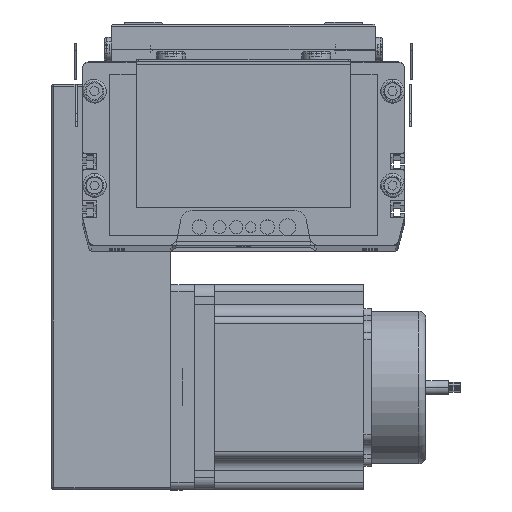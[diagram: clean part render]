
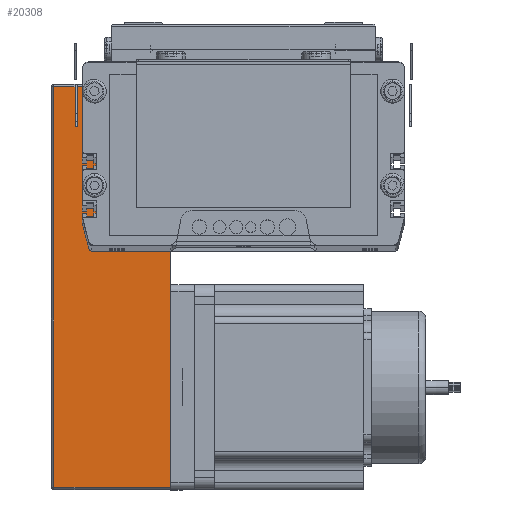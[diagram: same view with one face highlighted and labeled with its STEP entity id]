
A CAD part, top view. The second image highlights one B-rep face of the part: STEP entity #20308.
In plain terms, the highlighted planar face has unit normal (0, 0, 1) as drawn and (0, -1, 0) by its records, which use the part's own axes.
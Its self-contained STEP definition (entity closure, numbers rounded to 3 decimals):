
#7644 = CARTESIAN_POINT ( 'NONE',  ( 80.482, 0., 0. ) ) ;
#7772 = CARTESIAN_POINT ( 'NONE',  ( 10.902, 0., 0. ) ) ;
#7788 = CARTESIAN_POINT ( 'NONE',  ( 5.418, 0., 0. ) ) ;
#7795 = CARTESIAN_POINT ( 'NONE',  ( 74.998, 0., 0. ) ) ;
#8381 = CARTESIAN_POINT ( 'NONE',  ( 0., 0., 0. ) ) ;
#8382 = LINE ( 'NONE', #8381, #8388 ) ;
#8387 = DIRECTION ( 'NONE',  ( 1., 0., 0. ) ) ;
#8388 = VECTOR ( 'NONE', #8387, 1000. ) ;
#8419 = CARTESIAN_POINT ( 'NONE',  ( 169., 0., 0. ) ) ;
#8420 = CARTESIAN_POINT ( 'NONE',  ( 85.9, 0., 0. ) ) ;
#8501 = LINE ( 'NONE', #8574, #8573 ) ;
#8572 = DIRECTION ( 'NONE',  ( 1., 0., 0. ) ) ;
#8573 = VECTOR ( 'NONE', #8572, 1000. ) ;
#8574 = CARTESIAN_POINT ( 'NONE',  ( 0., 0., 0. ) ) ;
#8643 = DIRECTION ( 'NONE',  ( 1., 0., 0. ) ) ;
#8644 = VECTOR ( 'NONE', #8643, 1000. ) ;
#8645 = CARTESIAN_POINT ( 'NONE',  ( 0., 0., 0. ) ) ;
#8647 = LINE ( 'NONE', #8645, #8644 ) ;
#8679 = CARTESIAN_POINT ( 'NONE',  ( 1., 0., 0. ) ) ;
#8735 = DIRECTION ( 'NONE',  ( -1., 0., 0. ) ) ;
#8736 = VECTOR ( 'NONE', #8735, 1000. ) ;
#8737 = CARTESIAN_POINT ( 'NONE',  ( 0., 0., 49. ) ) ;
#8738 = LINE ( 'NONE', #8737, #8736 ) ;
#8758 = AXIS2_PLACEMENT_3D ( 'NONE', #8800, #8799, #8798 ) ;
#8783 = DIRECTION ( 'NONE',  ( 0., 0., -1. ) ) ;
#8784 = VECTOR ( 'NONE', #8783, 1000. ) ;
#8785 = CARTESIAN_POINT ( 'NONE',  ( 1., 0., 50. ) ) ;
#8786 = LINE ( 'NONE', #8785, #8784 ) ;
#8793 = DIRECTION ( 'NONE',  ( 1., 0., 0. ) ) ;
#8798 = DIRECTION ( 'NONE',  ( 0., 0., 1. ) ) ;
#8799 = DIRECTION ( 'NONE',  ( 0., 1., 0. ) ) ;
#8800 = CARTESIAN_POINT ( 'NONE',  ( 0., 0., 50. ) ) ;
#8805 = VECTOR ( 'NONE', #8793, 1000. ) ;
#8809 = PLANE ( 'NONE',  #8758 ) ;
#8811 = FACE_OUTER_BOUND ( 'NONE', #20176, .T. ) ;
#8816 = CARTESIAN_POINT ( 'NONE',  ( 0., 0., 0. ) ) ;
#8817 = LINE ( 'NONE', #8816, #8805 ) ;
#8824 = LINE ( 'NONE', #8875, #8874 ) ;
#8848 = DIRECTION ( 'NONE',  ( 0., 0., 1. ) ) ;
#8849 = VECTOR ( 'NONE', #8848, 1000. ) ;
#8850 = CARTESIAN_POINT ( 'NONE',  ( 169., 0., 50. ) ) ;
#8852 = LINE ( 'NONE', #8850, #8849 ) ;
#8861 = DIRECTION ( 'NONE',  ( 1., 0., 0. ) ) ;
#8862 = VECTOR ( 'NONE', #8861, 1000. ) ;
#8873 = DIRECTION ( 'NONE',  ( 1., 0., 0. ) ) ;
#8874 = VECTOR ( 'NONE', #8873, 1000. ) ;
#8875 = CARTESIAN_POINT ( 'NONE',  ( 0., 0., 0. ) ) ;
#8877 = CARTESIAN_POINT ( 'NONE',  ( 0., 0., 0. ) ) ;
#8878 = LINE ( 'NONE', #8877, #8862 ) ;
#8930 = CARTESIAN_POINT ( 'NONE',  ( 169., 0., 49. ) ) ;
#8931 = CARTESIAN_POINT ( 'NONE',  ( 1., 0., 49. ) ) ;
#19573 = VERTEX_POINT ( 'NONE', #7644 ) ;
#19659 = VERTEX_POINT ( 'NONE', #7772 ) ;
#19680 = VERTEX_POINT ( 'NONE', #7795 ) ;
#19682 = VERTEX_POINT ( 'NONE', #7788 ) ;
#20038 = EDGE_CURVE ( 'NONE', #20054, #20064, #8382, .T. ) ;
#20054 = VERTEX_POINT ( 'NONE', #8420 ) ;
#20064 = VERTEX_POINT ( 'NONE', #8419 ) ;
#20111 = EDGE_CURVE ( 'NONE', #20222, #19682, #8501, .T. ) ;
#20132 = ORIENTED_EDGE ( 'NONE', *, *, #20189, .T. ) ;
#20176 = EDGE_LOOP ( 'NONE', ( #20315, #20309, #20132, #20379, #20298, #20192, #20392, #20317, #20282 ) ) ;
#20189 = EDGE_CURVE ( 'NONE', #19659, #19680, #8647, .T. ) ;
#20192 = ORIENTED_EDGE ( 'NONE', *, *, #20038, .T. ) ;
#20222 = VERTEX_POINT ( 'NONE', #8679 ) ;
#20256 = EDGE_CURVE ( 'NONE', #20398, #20396, #8738, .T. ) ;
#20272 = EDGE_CURVE ( 'NONE', #20396, #20222, #8786, .T. ) ;
#20282 = ORIENTED_EDGE ( 'NONE', *, *, #20272, .T. ) ;
#20298 = ORIENTED_EDGE ( 'NONE', *, *, #20381, .T. ) ;
#20308 = ADVANCED_FACE ( 'NONE', ( #8811 ), #8809, .F. ) ;
#20309 = ORIENTED_EDGE ( 'NONE', *, *, #20316, .T. ) ;
#20315 = ORIENTED_EDGE ( 'NONE', *, *, #20111, .T. ) ;
#20316 = EDGE_CURVE ( 'NONE', #19682, #19659, #8817, .T. ) ;
#20317 = ORIENTED_EDGE ( 'NONE', *, *, #20256, .T. ) ;
#20366 = EDGE_CURVE ( 'NONE', #19680, #19573, #8824, .T. ) ;
#20379 = ORIENTED_EDGE ( 'NONE', *, *, #20366, .T. ) ;
#20381 = EDGE_CURVE ( 'NONE', #19573, #20054, #8878, .T. ) ;
#20386 = EDGE_CURVE ( 'NONE', #20064, #20398, #8852, .T. ) ;
#20392 = ORIENTED_EDGE ( 'NONE', *, *, #20386, .T. ) ;
#20396 = VERTEX_POINT ( 'NONE', #8931 ) ;
#20398 = VERTEX_POINT ( 'NONE', #8930 ) ;
